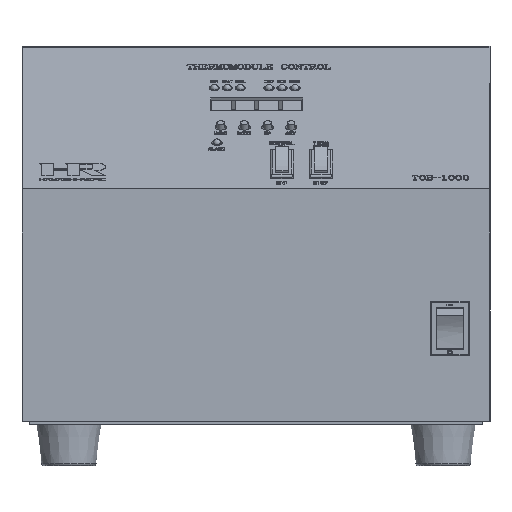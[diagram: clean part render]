
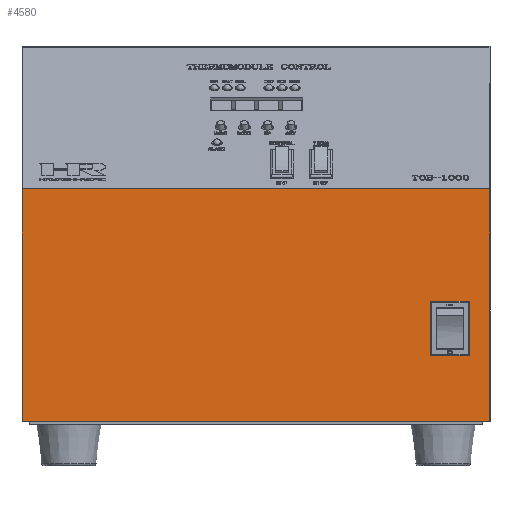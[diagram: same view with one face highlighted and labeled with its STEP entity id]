
A CAD part, left-side view. The second image highlights one B-rep face of the part: STEP entity #4580.
In plain terms, the highlighted planar face has unit normal (-1, 0, 0).
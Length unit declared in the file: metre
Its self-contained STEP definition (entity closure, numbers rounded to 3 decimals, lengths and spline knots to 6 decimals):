
#4580=ADVANCED_FACE('0:815',(#11568),#11569,.T.);
#11568=FACE_OUTER_BOUND('',#21602,.T.);
#11569=PLANE('',#21603);
#21602=EDGE_LOOP('',(#36169,#36170,#36171,#36172));
#21603=AXIS2_PLACEMENT_3D('',#36173,#36174,#36175);
#36169=ORIENTED_EDGE('',*,*,#62036,.F.);
#36170=ORIENTED_EDGE('',*,*,#62037,.F.);
#36171=ORIENTED_EDGE('',*,*,#62038,.T.);
#36172=ORIENTED_EDGE('',*,*,#62039,.T.);
#36173=CARTESIAN_POINT('',(0.0,0.09,0.0));
#36174=DIRECTION('',(-1.0,-0.0,0.0));
#36175=DIRECTION('',(0.0,-1.0,0.));
#62036=EDGE_CURVE('0:2922',#73737,#73738,#73739,.T.);
#62037=EDGE_CURVE('0:833',#73740,#73737,#73741,.T.);
#62038=EDGE_CURVE('0:857',#73740,#73742,#73743,.T.);
#62039=EDGE_CURVE('0:994',#73742,#73738,#73744,.T.);
#73737=VERTEX_POINT('',#90640);
#73738=VERTEX_POINT('',#90641);
#73739=LINE('',#90642,#90643);
#73740=VERTEX_POINT('',#90644);
#73741=LINE('',#90645,#90646);
#73742=VERTEX_POINT('',#90647);
#73743=LINE('',#90648,#90649);
#73744=LINE('',#90650,#90651);
#90640=CARTESIAN_POINT('',(0.0,0.18,0.089274));
#90641=CARTESIAN_POINT('',(0.0,0.0,0.089274));
#90642=CARTESIAN_POINT('',(0.,0.045,0.089274));
#90643=VECTOR('',#115359,1.0);
#90644=CARTESIAN_POINT('',(0.0,0.18,0.0));
#90645=CARTESIAN_POINT('',(0.0,0.18,0.0));
#90646=VECTOR('',#115360,1.0);
#90647=CARTESIAN_POINT('',(0.0,0.0,0.0));
#90648=CARTESIAN_POINT('',(0.0,0.18,0.0));
#90649=VECTOR('',#115361,1.0);
#90650=CARTESIAN_POINT('',(0.0,0.0,0.0));
#90651=VECTOR('',#115362,1.0);
#115359=DIRECTION('',(0.0,-1.0,0.0));
#115360=DIRECTION('',(0.0,0.0,1.0));
#115361=DIRECTION('',(0.0,-1.0,0.0));
#115362=DIRECTION('',(0.0,0.0,1.0));
